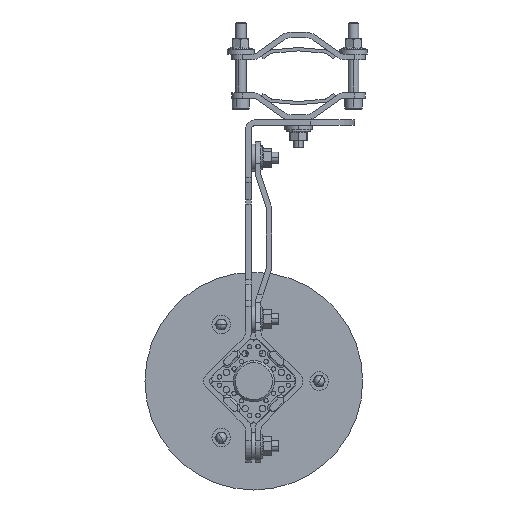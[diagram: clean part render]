
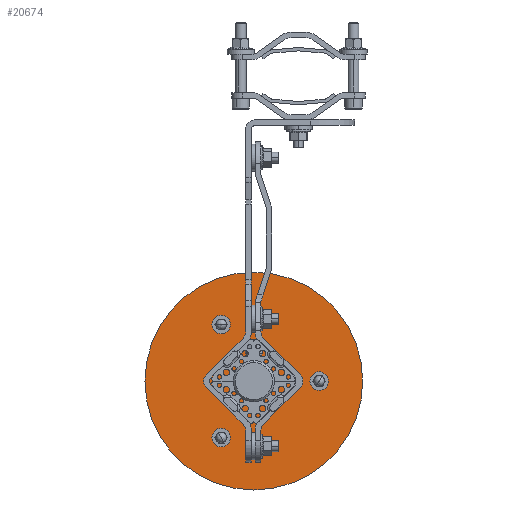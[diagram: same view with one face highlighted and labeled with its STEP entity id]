
A CAD part, front view. The second image highlights one B-rep face of the part: STEP entity #20674.
In plain terms, the highlighted planar face has unit normal (0, -1, 0) as drawn and (0, 0, -1) by its records, which use the part's own axes.
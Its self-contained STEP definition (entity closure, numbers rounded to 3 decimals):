
#508 = VERTEX_POINT ( 'NONE', #75002 ) ;
#804 = ORIENTED_EDGE ( 'NONE', *, *, #73232, .T. ) ;
#1110 = ORIENTED_EDGE ( 'NONE', *, *, #55805, .T. ) ;
#2341 = VERTEX_POINT ( 'NONE', #6532 ) ;
#4883 = DIRECTION ( 'NONE',  ( 1., 0., 0. ) ) ;
#5342 = ORIENTED_EDGE ( 'NONE', *, *, #98103, .T. ) ;
#6212 = CARTESIAN_POINT ( 'NONE',  ( 51.962, -30., 150. ) ) ;
#6532 = CARTESIAN_POINT ( 'NONE',  ( 46.712, -30., 150. ) ) ;
#8436 = CARTESIAN_POINT ( 'NONE',  ( -16.85, 0., 150. ) ) ;
#8653 = DIRECTION ( 'NONE',  ( 1., 0., 0. ) ) ;
#9912 = FACE_BOUND ( 'NONE', #39303, .T. ) ;
#10484 = DIRECTION ( 'NONE',  ( 0., 0., 1. ) ) ;
#10549 = VERTEX_POINT ( 'NONE', #25226 ) ;
#10572 = CIRCLE ( 'NONE', #108192, 5.25 ) ;
#10627 = EDGE_LOOP ( 'NONE', ( #53749, #93990 ) ) ;
#11098 = ORIENTED_EDGE ( 'NONE', *, *, #42443, .T. ) ;
#12320 = CIRCLE ( 'NONE', #107979, 5.25 ) ;
#12332 = CIRCLE ( 'NONE', #70101, 5.25 ) ;
#14759 = CARTESIAN_POINT ( 'NONE',  ( 0., 0., 150. ) ) ;
#15522 = DIRECTION ( 'NONE',  ( 1., 0., 0. ) ) ;
#15693 = EDGE_CURVE ( 'NONE', #109209, #26804, #28599, .T. ) ;
#20674 = ADVANCED_FACE ( 'NONE', ( #9912, #66045, #39224, #37377, #48538 ), #38012, .F. ) ;
#23813 = CARTESIAN_POINT ( 'NONE',  ( -51.962, -30., 150. ) ) ;
#24163 = DIRECTION ( 'NONE',  ( 0., 0., 1. ) ) ;
#25226 = CARTESIAN_POINT ( 'NONE',  ( -57.212, -30., 150. ) ) ;
#26350 = EDGE_CURVE ( 'NONE', #67428, #2341, #12320, .T. ) ;
#26804 = VERTEX_POINT ( 'NONE', #42592 ) ;
#28599 = CIRCLE ( 'NONE', #90376, 100. ) ;
#31254 = DIRECTION ( 'NONE',  ( 0., 0., 1. ) ) ;
#32279 = DIRECTION ( 'NONE',  ( 0., 0., 1. ) ) ;
#33621 = CARTESIAN_POINT ( 'NONE',  ( 0., 0., 150. ) ) ;
#34070 = DIRECTION ( 'NONE',  ( 1., 0., 0. ) ) ;
#34278 = DIRECTION ( 'NONE',  ( 0., 0., 1. ) ) ;
#34694 = DIRECTION ( 'NONE',  ( 1., 0., 0. ) ) ;
#34802 = CIRCLE ( 'NONE', #42736, 100. ) ;
#35301 = DIRECTION ( 'NONE',  ( 0., 0., 1. ) ) ;
#36742 = EDGE_CURVE ( 'NONE', #26804, #109209, #34802, .T. ) ;
#37377 = FACE_OUTER_BOUND ( 'NONE', #10627, .T. ) ;
#38012 = PLANE ( 'NONE',  #87311 ) ;
#39224 = FACE_BOUND ( 'NONE', #110585, .T. ) ;
#39303 = EDGE_LOOP ( 'NONE', ( #11098, #804 ) ) ;
#40295 = AXIS2_PLACEMENT_3D ( 'NONE', #14759, #52800, #34070 ) ;
#42411 = DIRECTION ( 'NONE',  ( 1., 0., 0. ) ) ;
#42443 = EDGE_CURVE ( 'NONE', #68979, #10549, #101477, .T. ) ;
#42592 = CARTESIAN_POINT ( 'NONE',  ( 100., 0., 150. ) ) ;
#42736 = AXIS2_PLACEMENT_3D ( 'NONE', #89231, #31254, #117331 ) ;
#43296 = VERTEX_POINT ( 'NONE', #68668 ) ;
#45674 = DIRECTION ( 'NONE',  ( 1., 0., 0. ) ) ;
#48538 = FACE_BOUND ( 'NONE', #91494, .T. ) ;
#50664 = EDGE_CURVE ( 'NONE', #508, #43296, #89784, .T. ) ;
#52800 = DIRECTION ( 'NONE',  ( 0., 0., 1. ) ) ;
#53749 = ORIENTED_EDGE ( 'NONE', *, *, #15693, .F. ) ;
#55805 = EDGE_CURVE ( 'NONE', #107777, #93108, #102008, .T. ) ;
#60879 = ORIENTED_EDGE ( 'NONE', *, *, #98142, .T. ) ;
#62374 = DIRECTION ( 'NONE',  ( 1., 0., 0. ) ) ;
#62513 = DIRECTION ( 'NONE',  ( 1., 0., 0. ) ) ;
#66045 = FACE_BOUND ( 'NONE', #99246, .T. ) ;
#67428 = VERTEX_POINT ( 'NONE', #74068 ) ;
#68668 = CARTESIAN_POINT ( 'NONE',  ( 5.25, 60., 150. ) ) ;
#68979 = VERTEX_POINT ( 'NONE', #113004 ) ;
#70101 = AXIS2_PLACEMENT_3D ( 'NONE', #114644, #10484, #8653 ) ;
#70898 = CARTESIAN_POINT ( 'NONE',  ( 0., 0., 150. ) ) ;
#73232 = EDGE_CURVE ( 'NONE', #10549, #68979, #10572, .T. ) ;
#74068 = CARTESIAN_POINT ( 'NONE',  ( 57.212, -30., 150. ) ) ;
#75002 = CARTESIAN_POINT ( 'NONE',  ( -5.25, 60., 150. ) ) ;
#81595 = DIRECTION ( 'NONE',  ( 0., 0., 1. ) ) ;
#82012 = CIRCLE ( 'NONE', #83973, 16.85 ) ;
#82084 = CARTESIAN_POINT ( 'NONE',  ( 0., 60., 150. ) ) ;
#83122 = ORIENTED_EDGE ( 'NONE', *, *, #50664, .T. ) ;
#83973 = AXIS2_PLACEMENT_3D ( 'NONE', #70898, #32279, #87782 ) ;
#87311 = AXIS2_PLACEMENT_3D ( 'NONE', #98440, #24163, #4883 ) ;
#87782 = DIRECTION ( 'NONE',  ( 1., 0., 0. ) ) ;
#87918 = ORIENTED_EDGE ( 'NONE', *, *, #26350, .T. ) ;
#88789 = ORIENTED_EDGE ( 'NONE', *, *, #103030, .T. ) ;
#89231 = CARTESIAN_POINT ( 'NONE',  ( 0., 0., 150. ) ) ;
#89784 = CIRCLE ( 'NONE', #91848, 5.25 ) ;
#90376 = AXIS2_PLACEMENT_3D ( 'NONE', #33621, #81595, #15522 ) ;
#91210 = DIRECTION ( 'NONE',  ( 0., 0., 1. ) ) ;
#91494 = EDGE_LOOP ( 'NONE', ( #1110, #60879 ) ) ;
#91848 = AXIS2_PLACEMENT_3D ( 'NONE', #82084, #35301, #34694 ) ;
#93108 = VERTEX_POINT ( 'NONE', #93634 ) ;
#93634 = CARTESIAN_POINT ( 'NONE',  ( 16.85, 0., 150. ) ) ;
#93990 = ORIENTED_EDGE ( 'NONE', *, *, #36742, .F. ) ;
#97176 = AXIS2_PLACEMENT_3D ( 'NONE', #117934, #109789, #62374 ) ;
#98103 = EDGE_CURVE ( 'NONE', #43296, #508, #12332, .T. ) ;
#98142 = EDGE_CURVE ( 'NONE', #93108, #107777, #82012, .T. ) ;
#98440 = CARTESIAN_POINT ( 'NONE',  ( 0., 0., 150. ) ) ;
#99246 = EDGE_LOOP ( 'NONE', ( #87918, #88789 ) ) ;
#101477 = CIRCLE ( 'NONE', #117436, 5.25 ) ;
#102008 = CIRCLE ( 'NONE', #40295, 16.85 ) ;
#103030 = EDGE_CURVE ( 'NONE', #2341, #67428, #115062, .T. ) ;
#103674 = CARTESIAN_POINT ( 'NONE',  ( -51.962, -30., 150. ) ) ;
#107777 = VERTEX_POINT ( 'NONE', #8436 ) ;
#107979 = AXIS2_PLACEMENT_3D ( 'NONE', #6212, #34278, #42411 ) ;
#108192 = AXIS2_PLACEMENT_3D ( 'NONE', #103674, #121190, #45674 ) ;
#109209 = VERTEX_POINT ( 'NONE', #109997 ) ;
#109789 = DIRECTION ( 'NONE',  ( 0., 0., 1. ) ) ;
#109997 = CARTESIAN_POINT ( 'NONE',  ( -100., 0., 150. ) ) ;
#110585 = EDGE_LOOP ( 'NONE', ( #5342, #83122 ) ) ;
#113004 = CARTESIAN_POINT ( 'NONE',  ( -46.712, -30., 150. ) ) ;
#114644 = CARTESIAN_POINT ( 'NONE',  ( 0., 60., 150. ) ) ;
#115062 = CIRCLE ( 'NONE', #97176, 5.25 ) ;
#117331 = DIRECTION ( 'NONE',  ( 1., 0., 0. ) ) ;
#117436 = AXIS2_PLACEMENT_3D ( 'NONE', #23813, #91210, #62513 ) ;
#117934 = CARTESIAN_POINT ( 'NONE',  ( 51.962, -30., 150. ) ) ;
#121190 = DIRECTION ( 'NONE',  ( 0., 0., 1. ) ) ;
